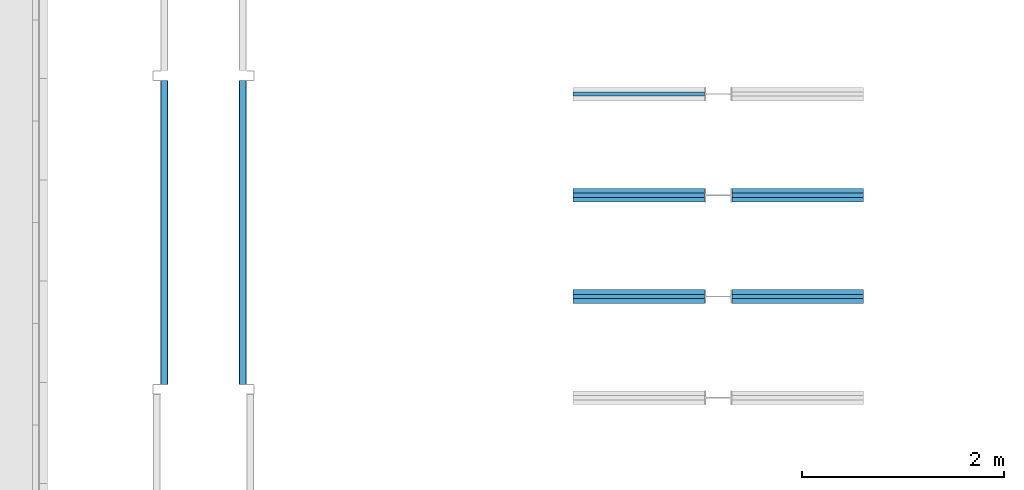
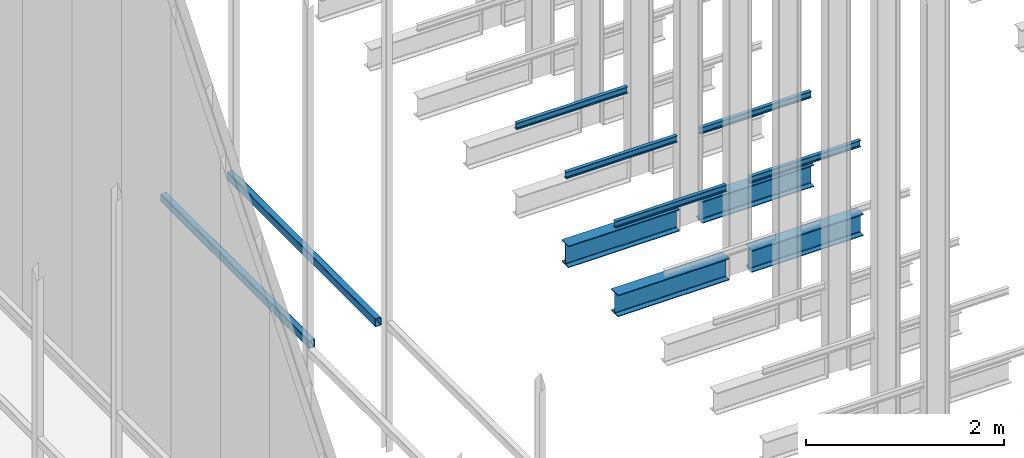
# One storey, part 159 of 302: 11 beams.
"""IFC2X3 building model written with IfcOpenShell, lengths in metres."""

from ifc_helpers import new_model, entity, si_unit, converted_unit, derived_unit, direction, frame, frame_2d, origin, place, context, subcontext, project, spatial, polyline, circle_curve, parameter, trimmed, segment, composite_curve, i_section, outline, extrude, material, type_object, element, save


model = new_model("IFC2X3")

# Units and contexts
model_context = context("Model", 3, precision=1e-05, world=origin(), true_north=direction((6.12303176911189e-17, 1.0)))
body_context = subcontext(model_context, "Body", "Model", "MODEL_VIEW")
ifc_project = project(units=[si_unit("LENGTHUNIT", "METRE"), si_unit("AREAUNIT", "SQUARE_METRE"), si_unit("VOLUMEUNIT", "CUBIC_METRE"), converted_unit("PLANEANGLEUNIT", "DEGREE", entity("IfcRatioMeasure", 0.0174532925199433), si_unit("PLANEANGLEUNIT", "RADIAN"), dimensions=[0, 0, 0, 0, 0, 0, 0]), si_unit("MASSUNIT", "GRAM", prefix="KILO"), derived_unit("MASSDENSITYUNIT", [(si_unit("MASSUNIT", "GRAM", prefix="KILO"), 1), (si_unit("LENGTHUNIT", "METRE"), -3)]), derived_unit("MOMENTOFINERTIAUNIT", [(si_unit("LENGTHUNIT", "METRE"), 4)]), si_unit("TIMEUNIT", "SECOND"), si_unit("FREQUENCYUNIT", "HERTZ"), si_unit("THERMODYNAMICTEMPERATUREUNIT", "DEGREE_CELSIUS"), derived_unit("THERMALTRANSMITTANCEUNIT", [(si_unit("MASSUNIT", "GRAM", prefix="KILO"), 1), (si_unit("THERMODYNAMICTEMPERATUREUNIT", "KELVIN"), -1), (si_unit("TIMEUNIT", "SECOND"), -3)]), derived_unit("VOLUMETRICFLOWRATEUNIT", [(si_unit("LENGTHUNIT", "METRE"), 3), (si_unit("TIMEUNIT", "SECOND"), -1)]), si_unit("ELECTRICCURRENTUNIT", "AMPERE"), si_unit("ELECTRICVOLTAGEUNIT", "VOLT"), si_unit("POWERUNIT", "WATT"), si_unit("FORCEUNIT", "NEWTON", prefix="KILO"), si_unit("ILLUMINANCEUNIT", "LUX"), si_unit("LUMINOUSFLUXUNIT", "LUMEN"), si_unit("LUMINOUSINTENSITYUNIT", "CANDELA"), derived_unit("USERDEFINED", [(si_unit("MASSUNIT", "GRAM", prefix="KILO"), -1), (si_unit("LENGTHUNIT", "METRE"), -2), (si_unit("TIMEUNIT", "SECOND"), 3), (si_unit("LUMINOUSFLUXUNIT", "LUMEN"), 1)]), derived_unit("LINEARVELOCITYUNIT", [(si_unit("LENGTHUNIT", "METRE"), 1), (si_unit("TIMEUNIT", "SECOND"), -1)]), si_unit("PRESSUREUNIT", "PASCAL"), derived_unit("USERDEFINED", [(si_unit("LENGTHUNIT", "METRE"), -2), (si_unit("MASSUNIT", "GRAM", prefix="KILO"), 1), (si_unit("TIMEUNIT", "SECOND"), -2)]), derived_unit("LINEARFORCEUNIT", [(si_unit("MASSUNIT", "GRAM", prefix="KILO"), 1), (si_unit("LENGTHUNIT", "METRE"), 1), (si_unit("TIMEUNIT", "SECOND"), -2), (si_unit("LENGTHUNIT", "METRE"), -1)]), derived_unit("PLANARFORCEUNIT", [(si_unit("MASSUNIT", "GRAM", prefix="KILO"), 1), (si_unit("LENGTHUNIT", "METRE"), 1), (si_unit("TIMEUNIT", "SECOND"), -2), (si_unit("LENGTHUNIT", "METRE"), -2)])], contexts=[model_context])

# Site, building, storey
site_placement = place(None, origin())
site = spatial("IfcSite", under=ifc_project, at=site_placement, Name="Default", CompositionType="ELEMENT")
building_placement = place(site_placement, origin())
building = spatial("IfcBuilding", under=site, at=building_placement, CompositionType="ELEMENT")
storey_placement = place(building_placement, frame((0.0, 0.0, -1.3)))
storey = spatial("IfcBuildingStorey", under=building, at=storey_placement, Name="00_EG", CompositionType="ELEMENT", Elevation=-1.3)

# Beams
ifc_material_1 = material(Name="Metall - Baustahl S235 blau")
beam_type_1 = type_object("IfcBeamType", Name="RHS Träger (EN 10219-2):RHS 100 x 75 x 5", PredefinedType="NOTDEFINED")
beam_1_placement = place(storey_placement, frame((-175.305111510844, 27.148088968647, 2.885), z_axis=(0.0, 0.0, 1.0), x_axis=(0.0, 1.0, 0.0)))
element("IfcBeam", 1, at=beam_1_placement, inside=storey, type_object=beam_type_1, material=ifc_material_1, Name="RHS Träger (EN 10219-2):RHS 100 x 75 x 5", ObjectType="RHS Träger (EN 10219-2):RHS 100 x 75 x 5", context=body_context, shape_type="SweptSolid", body=[
    extrude(outline(composite_curve([segment(trimmed(circle_curve(frame_2d((-0.0274999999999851, -0.0400000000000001), x_axis=(1.0, 0.0)), 0.01), [parameter(180.0)], [parameter(270.0)], True, "PARAMETER"), True, "CONTINUOUS"), segment(polyline([(-0.0274999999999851, -0.05), (0.0274999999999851, -0.05)]), True, "CONTINUOUS"), segment(trimmed(circle_curve(frame_2d((0.0274999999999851, -0.0400000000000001), x_axis=(1.0, 0.0)), 0.01), [parameter(270.0)], [parameter(5.08888749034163e-14)], True, "PARAMETER"), True, "CONTINUOUS"), segment(polyline([(0.0375000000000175, -0.0399999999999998), (0.0375000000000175, 0.0400000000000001)]), True, "CONTINUOUS"), segment(trimmed(circle_curve(frame_2d((0.0274999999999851, 0.0399999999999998), x_axis=(1.0, 0.0)), 0.01), [parameter(360.0)], [parameter(89.9999999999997)], True, "PARAMETER"), True, "CONTINUOUS"), segment(polyline([(0.0274999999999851, 0.05), (-0.0274999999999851, 0.05)]), True, "CONTINUOUS"), segment(trimmed(circle_curve(frame_2d((-0.0274999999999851, 0.0399999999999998), x_axis=(1.0, 0.0)), 0.01), [parameter(90.0000000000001)], [parameter(180.0)], True, "PARAMETER"), True, "CONTINUOUS"), segment(polyline([(-0.0374999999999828, 0.0400000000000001), (-0.0374999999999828, -0.0399999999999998)]), True, "CONTINUOUS")], self_intersect=False), holes=[composite_curve([segment(polyline([(0.0274999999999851, -0.0450000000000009), (-0.0274999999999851, -0.0450000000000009)]), True, "CONTINUOUS"), segment(trimmed(circle_curve(frame_2d((-0.0274999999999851, -0.0400000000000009), x_axis=(1.0, 0.0)), 0.005), [parameter(180.0)], [parameter(270.0)], True, "PARAMETER"), False, "CONTINUOUS"), segment(polyline([(-0.0325000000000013, -0.0400000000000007), (-0.0325000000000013, 0.0399999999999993)]), True, "CONTINUOUS"), segment(trimmed(circle_curve(frame_2d((-0.0274999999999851, 0.039999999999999), x_axis=(1.0, 0.0)), 0.005), [parameter(90.0000000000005)], [parameter(180.0)], True, "PARAMETER"), False, "CONTINUOUS"), segment(polyline([(-0.0274999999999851, 0.0449999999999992), (0.0274999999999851, 0.0449999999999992)]), True, "CONTINUOUS"), segment(trimmed(circle_curve(frame_2d((0.0274999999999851, 0.039999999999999), x_axis=(1.0, 0.0)), 0.005), [parameter(0.0)], [parameter(90.0000000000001)], True, "PARAMETER"), False, "CONTINUOUS"), segment(polyline([(0.0325000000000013, 0.0399999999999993), (0.0325000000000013, -0.0400000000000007)]), True, "CONTINUOUS"), segment(trimmed(circle_curve(frame_2d((0.0274999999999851, -0.0400000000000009), x_axis=(1.0, 0.0)), 0.005), [parameter(270.0)], [parameter(4.07110999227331e-13)], True, "PARAMETER"), False, "CONTINUOUS")], self_intersect=False)]), frame((9.99999999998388e-05, 0.0375000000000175, -0.0500000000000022), z_axis=(1.0, 0.0, 0.0), x_axis=(0.0, -1.0, 0.0)), (0.0, 0.0, 1.0), 2.9998),
])
beam_2_placement = place(storey_placement, frame((-176.155111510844, 27.148088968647, 2.885), z_axis=(0.0, 0.0, 1.0), x_axis=(0.0, 1.0, 0.0)))
element("IfcBeam", 2, at=beam_2_placement, inside=storey, type_object=beam_type_1, material=ifc_material_1, Name="RHS Träger (EN 10219-2):RHS 100 x 75 x 5", ObjectType="RHS Träger (EN 10219-2):RHS 100 x 75 x 5", context=body_context, shape_type="SweptSolid", body=[
    extrude(outline(composite_curve([segment(polyline([(-0.0399999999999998, -0.0374999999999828), (0.0400000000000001, -0.0374999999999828)]), True, "CONTINUOUS"), segment(trimmed(circle_curve(frame_2d((0.0399999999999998, -0.0274999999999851), x_axis=(0.0, 1.0)), 0.01), [parameter(180.0)], [parameter(270.0)], True, "PARAMETER"), True, "CONTINUOUS"), segment(polyline([(0.05, -0.0274999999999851), (0.05, 0.0274999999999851)]), True, "CONTINUOUS"), segment(trimmed(circle_curve(frame_2d((0.0399999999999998, 0.0274999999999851), x_axis=(0.0, 1.0)), 0.01), [parameter(270.0)], [parameter(4.07110999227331e-13)], True, "PARAMETER"), True, "CONTINUOUS"), segment(polyline([(0.0400000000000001, 0.0375000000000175), (-0.0399999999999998, 0.0375000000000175)]), True, "CONTINUOUS"), segment(trimmed(circle_curve(frame_2d((-0.0400000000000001, 0.0274999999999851), x_axis=(0.0, 1.0)), 0.01), [parameter(360.0)], [parameter(90.0000000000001)], True, "PARAMETER"), True, "CONTINUOUS"), segment(polyline([(-0.05, 0.0274999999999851), (-0.05, -0.0274999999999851)]), True, "CONTINUOUS"), segment(trimmed(circle_curve(frame_2d((-0.0400000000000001, -0.0274999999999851), x_axis=(0.0, 1.0)), 0.01), [parameter(90.0000000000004)], [parameter(180.0)], True, "PARAMETER"), True, "CONTINUOUS")], self_intersect=False), holes=[composite_curve([segment(trimmed(circle_curve(frame_2d((-0.0400000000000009, 0.0274999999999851), x_axis=(0.0, 1.0)), 0.005), [parameter(360.0)], [parameter(89.9999999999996)], True, "PARAMETER"), False, "CONTINUOUS"), segment(polyline([(-0.0400000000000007, 0.0325000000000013), (0.0399999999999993, 0.0325000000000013)]), True, "CONTINUOUS"), segment(trimmed(circle_curve(frame_2d((0.039999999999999, 0.0274999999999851), x_axis=(0.0, 1.0)), 0.005), [parameter(270.0)], [parameter(0.0)], True, "PARAMETER"), False, "CONTINUOUS"), segment(polyline([(0.0449999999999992, 0.0274999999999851), (0.0449999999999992, -0.0274999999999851)]), True, "CONTINUOUS"), segment(trimmed(circle_curve(frame_2d((0.039999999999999, -0.0274999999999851), x_axis=(0.0, 1.0)), 0.005), [parameter(180.0)], [parameter(269.999999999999)], True, "PARAMETER"), False, "CONTINUOUS"), segment(polyline([(0.0399999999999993, -0.0325000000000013), (-0.0400000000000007, -0.0325000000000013)]), True, "CONTINUOUS"), segment(trimmed(circle_curve(frame_2d((-0.0400000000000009, -0.0274999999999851), x_axis=(0.0, 1.0)), 0.005), [parameter(90.0000000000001)], [parameter(180.0)], True, "PARAMETER"), False, "CONTINUOUS"), segment(polyline([(-0.0450000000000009, -0.0274999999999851), (-0.0450000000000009, 0.0274999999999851)]), True, "CONTINUOUS")], self_intersect=False)]), frame((9.99999999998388e-05, -0.0375000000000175, -0.0500000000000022), z_axis=(1.0, 0.0, 0.0), x_axis=(0.0, 0.0, -1.0)), (0.0, 0.0, 1.0), 2.9998),
])
ifc_material_2 = material(Name="Metall - Baustahl S235")
beam_type_2 = type_object("IfcBeamType", Name="IPN Träger:IPN 80", PredefinedType="NOTDEFINED")
beam_3_placement = place(storey_placement, frame((-170.780111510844, 30.036588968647, 2.42), z_axis=(0.0, 0.0, 1.0), x_axis=(-1.0, 0.0, 0.0)))
element("IfcBeam", 3, at=beam_3_placement, inside=storey, type_object=beam_type_2, material=ifc_material_2, Name="IPN Träger:IPN 80", ObjectType="IPN Träger:IPN 80", context=body_context, shape_type="SweptSolid", body=[
    extrude(outline(composite_curve([segment(polyline([(0.0375704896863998, -0.0209999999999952), (0.0399999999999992, -0.0209999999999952)]), True, "CONTINUOUS"), segment(polyline([(0.0399999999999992, -0.0209999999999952), (0.0399999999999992, 0.0210000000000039)]), True, "CONTINUOUS"), segment(polyline([(0.039999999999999, 0.0210000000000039), (0.037570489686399, 0.0210000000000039)]), True, "CONTINUOUS"), segment(trimmed(circle_curve(frame_2d((0.037570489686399, 0.0187000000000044), x_axis=(0.0, 1.0)), 0.00230000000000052), [parameter(0.0)], [parameter(82.0299999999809)], True, "PARAMETER"), True, "CONTINUOUS"), segment(polyline([(0.0352927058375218, 0.019018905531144), (0.0333732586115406, 0.00530924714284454)]), True, "CONTINUOUS"), segment(trimmed(circle_curve(frame_2d((0.0295109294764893, 0.005850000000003), x_axis=(0.990340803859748, -0.138654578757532)), 0.00389999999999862), [parameter(277.969999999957)], [parameter(0.0)], True, "PARAMETER"), False, "CONTINUOUS"), segment(polyline([(0.0295109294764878, 0.00195000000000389), (-0.0295109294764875, 0.00195000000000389)]), True, "CONTINUOUS"), segment(trimmed(circle_curve(frame_2d((-0.029510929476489, 0.005850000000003), x_axis=(0.0, -1.0)), 0.00389999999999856), [parameter(277.969999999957)], [parameter(0.0)], True, "PARAMETER"), False, "CONTINUOUS"), segment(polyline([(-0.0333732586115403, 0.00530924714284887), (-0.0352927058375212, 0.0190189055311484)]), True, "CONTINUOUS"), segment(trimmed(circle_curve(frame_2d((-0.0375704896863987, 0.0187000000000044), x_axis=(0.990340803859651, 0.138654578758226)), 0.00230000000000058), [parameter(0.0)], [parameter(82.029999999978)], True, "PARAMETER"), True, "CONTINUOUS"), segment(polyline([(-0.0375704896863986, 0.0210000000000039), (-0.0400000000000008, 0.0210000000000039)]), True, "CONTINUOUS"), segment(polyline([(-0.0400000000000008, 0.0210000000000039), (-0.0400000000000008, -0.0209999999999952)]), True, "CONTINUOUS"), segment(polyline([(-0.0400000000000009, -0.0209999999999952), (-0.037570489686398, -0.0209999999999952)]), True, "CONTINUOUS"), segment(trimmed(circle_curve(frame_2d((-0.0375704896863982, -0.0186999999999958), x_axis=(0.0, -1.0)), 0.00230000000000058), [parameter(0.0)], [parameter(82.029999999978)], True, "PARAMETER"), True, "CONTINUOUS"), segment(polyline([(-0.0352927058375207, -0.0190189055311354), (-0.0333732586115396, -0.00530924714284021)]), True, "CONTINUOUS"), segment(trimmed(circle_curve(frame_2d((-0.0295109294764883, -0.00584999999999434), x_axis=(-0.990340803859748, 0.138654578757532)), 0.00389999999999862), [parameter(277.969999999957)], [parameter(0.0)], True, "PARAMETER"), False, "CONTINUOUS"), segment(polyline([(-0.0295109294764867, -0.00194999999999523), (0.0295109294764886, -0.00194999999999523)]), True, "CONTINUOUS"), segment(trimmed(circle_curve(frame_2d((0.0295109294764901, -0.00584999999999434), x_axis=(0.0, 1.0)), 0.00389999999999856), [parameter(277.969999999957)], [parameter(0.0)], True, "PARAMETER"), False, "CONTINUOUS"), segment(polyline([(0.0333732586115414, -0.00530924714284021), (0.0352927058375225, -0.0190189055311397)]), True, "CONTINUOUS"), segment(trimmed(circle_curve(frame_2d((0.0375704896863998, -0.0186999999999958), x_axis=(-0.990340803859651, -0.138654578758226)), 0.00230000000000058), [parameter(0.0)], [parameter(82.029999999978)], True, "PARAMETER"), True, "CONTINUOUS")], self_intersect=False)), frame((0.000100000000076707, 0.0209999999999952, -0.0400000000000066), z_axis=(1.0, 0.0, 0.0), x_axis=(0.0, 0.0, -1.0)), (0.0, 0.0, 1.0), 1.29990000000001),
])
beam_4_placement = place(storey_placement, frame((-170.510111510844, 28.994588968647, 2.42)))
element("IfcBeam", 4, at=beam_4_placement, inside=storey, type_object=beam_type_2, material=ifc_material_2, Name="IPN Träger:IPN 80", ObjectType="IPN Träger:IPN 80", context=body_context, shape_type="SweptSolid", body=[
    extrude(outline(composite_curve([segment(polyline([(0.0375704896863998, -0.0209999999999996), (0.0399999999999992, -0.0209999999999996)]), True, "CONTINUOUS"), segment(polyline([(0.0399999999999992, -0.0209999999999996), (0.0399999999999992, 0.0209999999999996)]), True, "CONTINUOUS"), segment(polyline([(0.039999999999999, 0.0209999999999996), (0.037570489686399, 0.0209999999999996)]), True, "CONTINUOUS"), segment(trimmed(circle_curve(frame_2d((0.037570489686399, 0.0187000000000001), x_axis=(0.0, 1.0)), 0.00230000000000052), [parameter(0.0)], [parameter(82.0299999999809)], True, "PARAMETER"), True, "CONTINUOUS"), segment(polyline([(0.0352927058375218, 0.0190189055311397), (0.0333732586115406, 0.00530924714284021)]), True, "CONTINUOUS"), segment(trimmed(circle_curve(frame_2d((0.0295109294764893, 0.00584999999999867), x_axis=(0.990340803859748, -0.138654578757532)), 0.00389999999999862), [parameter(277.969999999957)], [parameter(0.0)], True, "PARAMETER"), False, "CONTINUOUS"), segment(polyline([(0.0295109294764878, 0.00194999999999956), (-0.0295109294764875, 0.00194999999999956)]), True, "CONTINUOUS"), segment(trimmed(circle_curve(frame_2d((-0.029510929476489, 0.00584999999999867), x_axis=(0.0, -1.0)), 0.00389999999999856), [parameter(277.969999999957)], [parameter(0.0)], True, "PARAMETER"), False, "CONTINUOUS"), segment(polyline([(-0.0333732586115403, 0.00530924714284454), (-0.0352927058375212, 0.019018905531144)]), True, "CONTINUOUS"), segment(trimmed(circle_curve(frame_2d((-0.0375704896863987, 0.0187000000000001), x_axis=(0.990340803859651, 0.138654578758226)), 0.00230000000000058), [parameter(0.0)], [parameter(82.029999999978)], True, "PARAMETER"), True, "CONTINUOUS"), segment(polyline([(-0.0375704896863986, 0.0209999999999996), (-0.0400000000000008, 0.0209999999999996)]), True, "CONTINUOUS"), segment(polyline([(-0.0400000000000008, 0.0209999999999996), (-0.0400000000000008, -0.0209999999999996)]), True, "CONTINUOUS"), segment(polyline([(-0.0400000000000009, -0.0209999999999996), (-0.037570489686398, -0.0209999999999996)]), True, "CONTINUOUS"), segment(trimmed(circle_curve(frame_2d((-0.0375704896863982, -0.0187000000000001), x_axis=(0.0, -1.0)), 0.00230000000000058), [parameter(0.0)], [parameter(82.029999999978)], True, "PARAMETER"), True, "CONTINUOUS"), segment(polyline([(-0.0352927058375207, -0.0190189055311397), (-0.0333732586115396, -0.00530924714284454)]), True, "CONTINUOUS"), segment(trimmed(circle_curve(frame_2d((-0.0295109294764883, -0.00584999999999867), x_axis=(-0.990340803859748, 0.138654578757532)), 0.00389999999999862), [parameter(277.969999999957)], [parameter(0.0)], True, "PARAMETER"), False, "CONTINUOUS"), segment(polyline([(-0.0295109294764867, -0.00194999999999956), (0.0295109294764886, -0.00194999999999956)]), True, "CONTINUOUS"), segment(trimmed(circle_curve(frame_2d((0.0295109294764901, -0.00584999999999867), x_axis=(0.0, 1.0)), 0.00389999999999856), [parameter(277.969999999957)], [parameter(0.0)], True, "PARAMETER"), False, "CONTINUOUS"), segment(polyline([(0.0333732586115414, -0.00530924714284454), (0.0352927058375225, -0.019018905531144)]), True, "CONTINUOUS"), segment(trimmed(circle_curve(frame_2d((0.0375704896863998, -0.0187000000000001), x_axis=(-0.990340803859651, -0.138654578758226)), 0.00230000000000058), [parameter(0.0)], [parameter(82.029999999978)], True, "PARAMETER"), True, "CONTINUOUS")], self_intersect=False)), frame((0.000100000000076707, 0.0209999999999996, -0.0400000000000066), z_axis=(1.0, 0.0, 0.0), x_axis=(0.0, 0.0, -1.0)), (0.0, 0.0, 1.0), 1.29990000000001),
])
beam_5_placement = place(storey_placement, frame((-170.780111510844, 29.036588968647, 2.42), z_axis=(0.0, 0.0, 1.0), x_axis=(-1.0, 0.0, 0.0)))
element("IfcBeam", 5, at=beam_5_placement, inside=storey, type_object=beam_type_2, material=ifc_material_2, Name="IPN Träger:IPN 80", ObjectType="IPN Träger:IPN 80", context=body_context, shape_type="SweptSolid", body=[
    extrude(outline(composite_curve([segment(polyline([(0.0375704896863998, -0.0209999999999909), (0.0399999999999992, -0.0209999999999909)]), True, "CONTINUOUS"), segment(polyline([(0.0399999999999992, -0.0209999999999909), (0.0399999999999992, 0.0210000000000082)]), True, "CONTINUOUS"), segment(polyline([(0.039999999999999, 0.0210000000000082), (0.037570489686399, 0.0210000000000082)]), True, "CONTINUOUS"), segment(trimmed(circle_curve(frame_2d((0.037570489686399, 0.0187000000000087), x_axis=(0.0, 1.0)), 0.00230000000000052), [parameter(0.0)], [parameter(82.0299999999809)], True, "PARAMETER"), True, "CONTINUOUS"), segment(polyline([(0.0352927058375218, 0.0190189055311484), (0.0333732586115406, 0.00530924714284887)]), True, "CONTINUOUS"), segment(trimmed(circle_curve(frame_2d((0.0295109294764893, 0.00585000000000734), x_axis=(0.990340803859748, -0.138654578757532)), 0.00389999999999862), [parameter(277.969999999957)], [parameter(0.0)], True, "PARAMETER"), False, "CONTINUOUS"), segment(polyline([(0.0295109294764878, 0.00195000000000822), (-0.0295109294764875, 0.00195000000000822)]), True, "CONTINUOUS"), segment(trimmed(circle_curve(frame_2d((-0.029510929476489, 0.00585000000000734), x_axis=(0.0, -1.0)), 0.00389999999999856), [parameter(277.969999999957)], [parameter(0.0)], True, "PARAMETER"), False, "CONTINUOUS"), segment(polyline([(-0.0333732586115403, 0.0053092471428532), (-0.0352927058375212, 0.0190189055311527)]), True, "CONTINUOUS"), segment(trimmed(circle_curve(frame_2d((-0.0375704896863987, 0.0187000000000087), x_axis=(0.990340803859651, 0.138654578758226)), 0.00230000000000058), [parameter(0.0)], [parameter(82.029999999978)], True, "PARAMETER"), True, "CONTINUOUS"), segment(polyline([(-0.0375704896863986, 0.0210000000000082), (-0.0400000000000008, 0.0210000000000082)]), True, "CONTINUOUS"), segment(polyline([(-0.0400000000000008, 0.0210000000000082), (-0.0400000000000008, -0.0209999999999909)]), True, "CONTINUOUS"), segment(polyline([(-0.0400000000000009, -0.0209999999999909), (-0.037570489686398, -0.0209999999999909)]), True, "CONTINUOUS"), segment(trimmed(circle_curve(frame_2d((-0.0375704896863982, -0.0186999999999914), x_axis=(0.0, -1.0)), 0.00230000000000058), [parameter(0.0)], [parameter(82.029999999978)], True, "PARAMETER"), True, "CONTINUOUS"), segment(polyline([(-0.0352927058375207, -0.019018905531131), (-0.0333732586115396, -0.00530924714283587)]), True, "CONTINUOUS"), segment(trimmed(circle_curve(frame_2d((-0.0295109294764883, -0.00584999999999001), x_axis=(-0.990340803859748, 0.138654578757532)), 0.00389999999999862), [parameter(277.969999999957)], [parameter(0.0)], True, "PARAMETER"), False, "CONTINUOUS"), segment(polyline([(-0.0295109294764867, -0.00194999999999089), (0.0295109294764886, -0.00194999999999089)]), True, "CONTINUOUS"), segment(trimmed(circle_curve(frame_2d((0.0295109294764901, -0.00584999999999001), x_axis=(0.0, 1.0)), 0.00389999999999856), [parameter(277.969999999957)], [parameter(0.0)], True, "PARAMETER"), False, "CONTINUOUS"), segment(polyline([(0.0333732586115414, -0.00530924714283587), (0.0352927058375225, -0.0190189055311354)]), True, "CONTINUOUS"), segment(trimmed(circle_curve(frame_2d((0.0375704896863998, -0.0186999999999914), x_axis=(-0.990340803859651, -0.138654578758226)), 0.00230000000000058), [parameter(0.0)], [parameter(82.029999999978)], True, "PARAMETER"), True, "CONTINUOUS")], self_intersect=False)), frame((0.000100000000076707, 0.0209999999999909, -0.0400000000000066), z_axis=(1.0, 0.0, 0.0), x_axis=(0.0, 0.0, -1.0)), (0.0, 0.0, 1.0), 1.29990000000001),
])
beam_6_placement = place(storey_placement, frame((-170.510111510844, 27.994588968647, 2.42)))
element("IfcBeam", 6, at=beam_6_placement, inside=storey, type_object=beam_type_2, material=ifc_material_2, Name="IPN Träger:IPN 80", ObjectType="IPN Träger:IPN 80", context=body_context, shape_type="SweptSolid", body=[
    extrude(outline(composite_curve([segment(polyline([(0.0375704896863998, -0.0210000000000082), (0.0399999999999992, -0.0210000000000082)]), True, "CONTINUOUS"), segment(polyline([(0.0399999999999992, -0.0210000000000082), (0.0399999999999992, 0.0209999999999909)]), True, "CONTINUOUS"), segment(polyline([(0.039999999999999, 0.0209999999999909), (0.037570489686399, 0.0209999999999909)]), True, "CONTINUOUS"), segment(trimmed(circle_curve(frame_2d((0.037570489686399, 0.0186999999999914), x_axis=(0.0, 1.0)), 0.00230000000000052), [parameter(0.0)], [parameter(82.0299999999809)], True, "PARAMETER"), True, "CONTINUOUS"), segment(polyline([(0.0352927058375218, 0.019018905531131), (0.0333732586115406, 0.00530924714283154)]), True, "CONTINUOUS"), segment(trimmed(circle_curve(frame_2d((0.0295109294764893, 0.00584999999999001), x_axis=(0.990340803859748, -0.138654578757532)), 0.00389999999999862), [parameter(277.969999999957)], [parameter(0.0)], True, "PARAMETER"), False, "CONTINUOUS"), segment(polyline([(0.0295109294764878, 0.00194999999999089), (-0.0295109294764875, 0.00194999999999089)]), True, "CONTINUOUS"), segment(trimmed(circle_curve(frame_2d((-0.029510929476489, 0.00584999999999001), x_axis=(0.0, -1.0)), 0.00389999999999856), [parameter(277.969999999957)], [parameter(0.0)], True, "PARAMETER"), False, "CONTINUOUS"), segment(polyline([(-0.0333732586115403, 0.00530924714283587), (-0.0352927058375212, 0.0190189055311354)]), True, "CONTINUOUS"), segment(trimmed(circle_curve(frame_2d((-0.0375704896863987, 0.0186999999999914), x_axis=(0.990340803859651, 0.138654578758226)), 0.00230000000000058), [parameter(0.0)], [parameter(82.029999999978)], True, "PARAMETER"), True, "CONTINUOUS"), segment(polyline([(-0.0375704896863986, 0.0209999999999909), (-0.0400000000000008, 0.0209999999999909)]), True, "CONTINUOUS"), segment(polyline([(-0.0400000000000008, 0.0209999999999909), (-0.0400000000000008, -0.0210000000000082)]), True, "CONTINUOUS"), segment(polyline([(-0.0400000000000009, -0.0210000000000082), (-0.037570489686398, -0.0210000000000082)]), True, "CONTINUOUS"), segment(trimmed(circle_curve(frame_2d((-0.0375704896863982, -0.0187000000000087), x_axis=(0.0, -1.0)), 0.00230000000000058), [parameter(0.0)], [parameter(82.029999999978)], True, "PARAMETER"), True, "CONTINUOUS"), segment(polyline([(-0.0352927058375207, -0.0190189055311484), (-0.0333732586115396, -0.0053092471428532)]), True, "CONTINUOUS"), segment(trimmed(circle_curve(frame_2d((-0.0295109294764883, -0.00585000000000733), x_axis=(-0.990340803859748, 0.138654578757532)), 0.00389999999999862), [parameter(277.969999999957)], [parameter(0.0)], True, "PARAMETER"), False, "CONTINUOUS"), segment(polyline([(-0.0295109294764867, -0.00195000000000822), (0.0295109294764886, -0.00195000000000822)]), True, "CONTINUOUS"), segment(trimmed(circle_curve(frame_2d((0.0295109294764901, -0.00585000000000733), x_axis=(0.0, 1.0)), 0.00389999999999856), [parameter(277.969999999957)], [parameter(0.0)], True, "PARAMETER"), False, "CONTINUOUS"), segment(polyline([(0.0333732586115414, -0.0053092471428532), (0.0352927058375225, -0.0190189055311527)]), True, "CONTINUOUS"), segment(trimmed(circle_curve(frame_2d((0.0375704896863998, -0.0187000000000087), x_axis=(-0.990340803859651, -0.138654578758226)), 0.00230000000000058), [parameter(0.0)], [parameter(82.029999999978)], True, "PARAMETER"), True, "CONTINUOUS")], self_intersect=False)), frame((0.000100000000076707, 0.0210000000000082, -0.0400000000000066), z_axis=(1.0, 0.0, 0.0), x_axis=(0.0, 0.0, -1.0)), (0.0, 0.0, 1.0), 1.29990000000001),
])
beam_7_placement = place(storey_placement, frame((-170.780111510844, 28.036588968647, 2.42), z_axis=(0.0, 0.0, 1.0), x_axis=(-1.0, 0.0, 0.0)))
element("IfcBeam", 7, at=beam_7_placement, inside=storey, type_object=beam_type_2, material=ifc_material_2, Name="IPN Träger:IPN 80", ObjectType="IPN Träger:IPN 80", context=body_context, shape_type="SweptSolid", body=[
    extrude(outline(composite_curve([segment(polyline([(0.0375704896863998, -0.0210000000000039), (0.0399999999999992, -0.0210000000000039)]), True, "CONTINUOUS"), segment(polyline([(0.0399999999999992, -0.0210000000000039), (0.0399999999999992, 0.0209999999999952)]), True, "CONTINUOUS"), segment(polyline([(0.039999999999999, 0.0209999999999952), (0.037570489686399, 0.0209999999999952)]), True, "CONTINUOUS"), segment(trimmed(circle_curve(frame_2d((0.037570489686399, 0.0186999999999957), x_axis=(0.0, 1.0)), 0.00230000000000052), [parameter(0.0)], [parameter(82.0299999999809)], True, "PARAMETER"), True, "CONTINUOUS"), segment(polyline([(0.0352927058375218, 0.0190189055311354), (0.0333732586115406, 0.00530924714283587)]), True, "CONTINUOUS"), segment(trimmed(circle_curve(frame_2d((0.0295109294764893, 0.00584999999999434), x_axis=(0.990340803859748, -0.138654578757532)), 0.00389999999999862), [parameter(277.969999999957)], [parameter(0.0)], True, "PARAMETER"), False, "CONTINUOUS"), segment(polyline([(0.0295109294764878, 0.00194999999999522), (-0.0295109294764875, 0.00194999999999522)]), True, "CONTINUOUS"), segment(trimmed(circle_curve(frame_2d((-0.029510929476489, 0.00584999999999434), x_axis=(0.0, -1.0)), 0.00389999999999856), [parameter(277.969999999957)], [parameter(0.0)], True, "PARAMETER"), False, "CONTINUOUS"), segment(polyline([(-0.0333732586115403, 0.0053092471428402), (-0.0352927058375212, 0.0190189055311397)]), True, "CONTINUOUS"), segment(trimmed(circle_curve(frame_2d((-0.0375704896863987, 0.0186999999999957), x_axis=(0.990340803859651, 0.138654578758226)), 0.00230000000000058), [parameter(0.0)], [parameter(82.029999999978)], True, "PARAMETER"), True, "CONTINUOUS"), segment(polyline([(-0.0375704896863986, 0.0209999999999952), (-0.0400000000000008, 0.0209999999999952)]), True, "CONTINUOUS"), segment(polyline([(-0.0400000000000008, 0.0209999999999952), (-0.0400000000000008, -0.0210000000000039)]), True, "CONTINUOUS"), segment(polyline([(-0.0400000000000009, -0.0210000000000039), (-0.037570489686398, -0.0210000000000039)]), True, "CONTINUOUS"), segment(trimmed(circle_curve(frame_2d((-0.0375704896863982, -0.0187000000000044), x_axis=(0.0, -1.0)), 0.00230000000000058), [parameter(0.0)], [parameter(82.029999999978)], True, "PARAMETER"), True, "CONTINUOUS"), segment(polyline([(-0.0352927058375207, -0.019018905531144), (-0.0333732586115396, -0.00530924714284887)]), True, "CONTINUOUS"), segment(trimmed(circle_curve(frame_2d((-0.0295109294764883, -0.005850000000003), x_axis=(-0.990340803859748, 0.138654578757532)), 0.00389999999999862), [parameter(277.969999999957)], [parameter(0.0)], True, "PARAMETER"), False, "CONTINUOUS"), segment(polyline([(-0.0295109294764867, -0.00195000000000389), (0.0295109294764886, -0.00195000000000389)]), True, "CONTINUOUS"), segment(trimmed(circle_curve(frame_2d((0.0295109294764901, -0.005850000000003), x_axis=(0.0, 1.0)), 0.00389999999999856), [parameter(277.969999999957)], [parameter(0.0)], True, "PARAMETER"), False, "CONTINUOUS"), segment(polyline([(0.0333732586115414, -0.00530924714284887), (0.0352927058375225, -0.0190189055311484)]), True, "CONTINUOUS"), segment(trimmed(circle_curve(frame_2d((0.0375704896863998, -0.0187000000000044), x_axis=(-0.990340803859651, -0.138654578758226)), 0.00230000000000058), [parameter(0.0)], [parameter(82.029999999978)], True, "PARAMETER"), True, "CONTINUOUS")], self_intersect=False)), frame((0.000100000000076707, 0.0210000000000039, -0.0400000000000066), z_axis=(1.0, 0.0, 0.0), x_axis=(0.0, 0.0, -1.0)), (0.0, 0.0, 1.0), 1.29990000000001),
])
beam_type_3 = type_object("IfcBeamType", Name="IPE Träger:IPE 270", PredefinedType="NOTDEFINED")
beam_8_placement = place(storey_placement, frame((-170.780111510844, 28.083088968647, 1.54000000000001), z_axis=(0.0, 0.0, 1.0), x_axis=(-1.0, 0.0, 0.0)))
element("IfcBeam", 8, at=beam_8_placement, inside=storey, type_object=beam_type_3, material=ifc_material_2, Name="IPE Träger:IPE 270", ObjectType="IPE Träger:IPE 270", context=body_context, shape_type="SweptSolid", body=[
    extrude(i_section(OverallWidth=0.134999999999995, OverallDepth=0.27, WebThickness=0.00660000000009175, FlangeThickness=0.0102000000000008, FilletRadius=0.0150000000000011, at=frame_2d((5.96744875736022e-16, -6.49480469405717e-15), x_axis=(0.0, 1.0))), frame((0.000100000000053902, 0.0675000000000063, -0.135000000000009), z_axis=(1.0, 0.0, 0.0), x_axis=(0.0, 0.0, -1.0)), (0.0, 0.0, 1.0), 1.29990000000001),
])
beam_9_placement = place(storey_placement, frame((-170.510111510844, 28.083088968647, 1.54000000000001)))
element("IfcBeam", 9, at=beam_9_placement, inside=storey, type_object=beam_type_3, material=ifc_material_2, Name="IPE Träger:IPE 270", ObjectType="IPE Träger:IPE 270", context=body_context, shape_type="SweptSolid", body=[
    extrude(i_section(OverallWidth=0.134999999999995, OverallDepth=0.27, WebThickness=0.00660000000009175, FlangeThickness=0.0102000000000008, FilletRadius=0.0150000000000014, at=frame_2d((5.96744875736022e-16, 2.16493489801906e-15), x_axis=(0.0, 1.0))), frame((0.000100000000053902, -0.0674999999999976, -0.135000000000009), z_axis=(1.0, 0.0, 0.0), x_axis=(0.0, 0.0, -1.0)), (0.0, 0.0, 1.0), 1.29990000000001),
])
beam_10_placement = place(storey_placement, frame((-170.780111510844, 29.083088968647, 1.54000000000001), z_axis=(0.0, 0.0, 1.0), x_axis=(-1.0, 0.0, 0.0)))
element("IfcBeam", 10, at=beam_10_placement, inside=storey, type_object=beam_type_3, material=ifc_material_2, Name="IPE Träger:IPE 270", ObjectType="IPE Träger:IPE 270", context=body_context, shape_type="SweptSolid", body=[
    extrude(i_section(OverallWidth=0.134999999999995, OverallDepth=0.27, WebThickness=0.00660000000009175, FlangeThickness=0.0102000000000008, FilletRadius=0.0150000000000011, at=frame_2d((5.96744875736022e-16, -6.49480469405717e-15), x_axis=(0.0, 1.0))), frame((0.00010000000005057, 0.0675000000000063, -0.135000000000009), z_axis=(1.0, 0.0, 0.0), x_axis=(0.0, 0.0, -1.0)), (0.0, 0.0, 1.0), 1.29990000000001),
])
beam_11_placement = place(storey_placement, frame((-170.510111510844, 29.083088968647, 1.54000000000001)))
element("IfcBeam", 11, at=beam_11_placement, inside=storey, type_object=beam_type_3, material=ifc_material_2, Name="IPE Träger:IPE 270", ObjectType="IPE Träger:IPE 270", context=body_context, shape_type="SweptSolid", body=[
    extrude(i_section(OverallWidth=0.134999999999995, OverallDepth=0.27, WebThickness=0.00660000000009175, FlangeThickness=0.0102000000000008, FilletRadius=0.0150000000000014, at=frame_2d((5.96744875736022e-16, 6.49480469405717e-15), x_axis=(0.0, 1.0))), frame((0.00010000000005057, -0.067500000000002, -0.135000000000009), z_axis=(1.0, 0.0, 0.0), x_axis=(0.0, 0.0, -1.0)), (0.0, 0.0, 1.0), 1.29990000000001),
])

save(model, "model.ifc")
